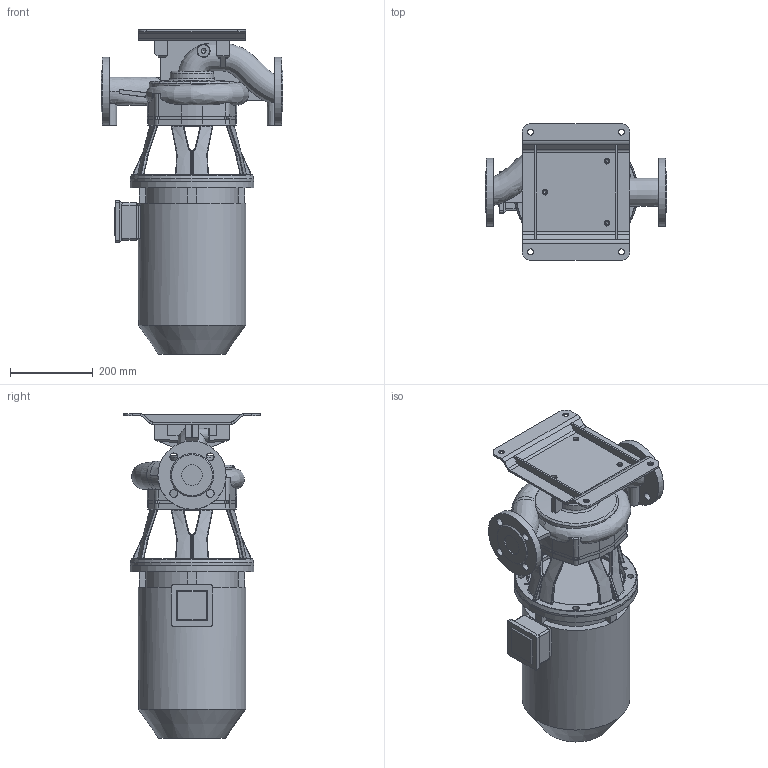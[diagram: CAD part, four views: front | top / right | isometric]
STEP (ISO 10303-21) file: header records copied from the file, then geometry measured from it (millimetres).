
FILE_DESCRIPTION (( 'STEP AP203' ), '1' );
FILE_NAME ('KI50-180_2_7,5kW.STEP', '2024-07-26T07:07:21', ( '' ), ( '' ), 'SwSTEP 2.0', 'SolidWorks 2023', '' );
FILE_SCHEMA (( 'CONFIG_CONTROL_DESIGN' ));
Length unit declared in the file: millimetre
Products named in the file (11): 230031; KI50-180_2_7,5kW; 230034; 480013_solid; 230481; 220496; 220497; 230482; 230412; 230413; 230033
Assembly tree (11 placements, depth 3):
  KI50-180_2_7,5kW
    480013_solid
    230413
      230412
    230482
      230481
    220497
      220496
    230034
      230031
      230033  x2
Bounding box: 440 x 330.18 x 784.85 mm (x, y, z)
Volume: 30471420.4 mm3; surface area: 1419575.5 mm2
Topology: 7 solids, 7 shells, 888 faces, 2236 edges, 1354 vertices
Faces by surface type: plane 284, cylinder 247, bspline 201, torus 73, cone 69, sphere 14
Full cylindrical faces by diameter (mm): 5 x4, 6 x3, 6.8 x4, 7 x8, 10.2 x7, 11.8 x4, 14 x4, 14.5 x7, 15 x8, 19 x8, 50 x2, 150 x1, 165 x2, 186 x1, 189 x1, 230 x1, 260 x1, 300 x2
Entity records: 49204 total; most frequent: CARTESIAN_POINT 29105, ORIENTED_EDGE 4102, DIRECTION 3617, EDGE_CURVE 2051, AXIS2_PLACEMENT_3D 1445, VERTEX_POINT 1296, EDGE_LOOP 1083, FACE_OUTER_BOUND 949
